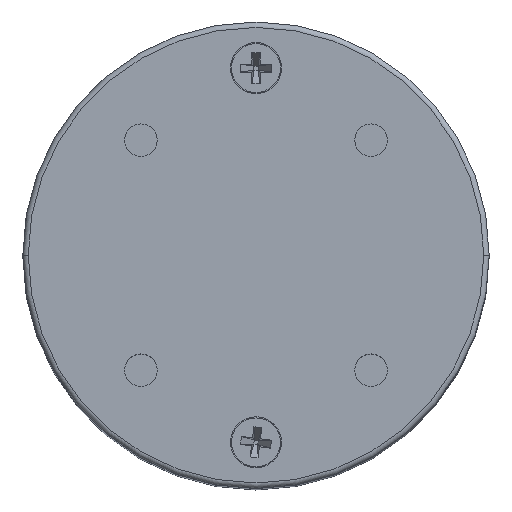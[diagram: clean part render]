
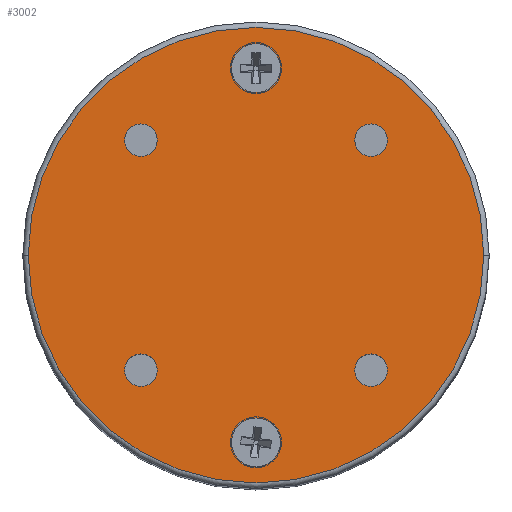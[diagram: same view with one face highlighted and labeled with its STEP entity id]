
A CAD part, top view. The second image highlights one B-rep face of the part: STEP entity #3002.
In plain terms, the highlighted planar face has unit normal (0, 0, 1).
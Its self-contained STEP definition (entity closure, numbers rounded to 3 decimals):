
#75 = DIRECTION ( 'NONE',  ( 0., 0., 1. ) ) ;
#327 = FACE_BOUND ( 'NONE', #793, .T. ) ;
#335 = CIRCLE ( 'NONE', #565, 2.25 ) ;
#366 = CIRCLE ( 'NONE', #3452, 2.25 ) ;
#378 = PLANE ( 'NONE',  #1835 ) ;
#414 = EDGE_CURVE ( 'NONE', #7295, #438, #3733, .T. ) ;
#438 = VERTEX_POINT ( 'NONE', #2697 ) ;
#442 = CIRCLE ( 'NONE', #2702, 1.5 ) ;
#463 = DIRECTION ( 'NONE',  ( 1., 0., 0. ) ) ;
#485 = FACE_OUTER_BOUND ( 'NONE', #1609, .T. ) ;
#516 = DIRECTION ( 'NONE',  ( 0., -1., 0. ) ) ;
#539 = EDGE_CURVE ( 'NONE', #3662, #720, #366, .T. ) ;
#565 = AXIS2_PLACEMENT_3D ( 'NONE', #608, #4568, #1172 ) ;
#608 = CARTESIAN_POINT ( 'NONE',  ( 0., -17.25, 89. ) ) ;
#636 = EDGE_CURVE ( 'NONE', #5842, #4505, #2839, .T. ) ;
#684 = CARTESIAN_POINT ( 'NONE',  ( 0., 0., 89. ) ) ;
#720 = VERTEX_POINT ( 'NONE', #1354 ) ;
#725 = CARTESIAN_POINT ( 'NONE',  ( 10.607, -10.607, 89. ) ) ;
#737 = DIRECTION ( 'NONE',  ( 0., 0., 1. ) ) ;
#742 = AXIS2_PLACEMENT_3D ( 'NONE', #684, #7053, #463 ) ;
#793 = EDGE_LOOP ( 'NONE', ( #5277, #5491 ) ) ;
#803 = VERTEX_POINT ( 'NONE', #6520 ) ;
#846 = CARTESIAN_POINT ( 'NONE',  ( 9.107, 10.607, 89. ) ) ;
#954 = DIRECTION ( 'NONE',  ( 0., 0., 1. ) ) ;
#1047 = AXIS2_PLACEMENT_3D ( 'NONE', #3234, #7156, #3802 ) ;
#1131 = ORIENTED_EDGE ( 'NONE', *, *, #4450, .F. ) ;
#1172 = DIRECTION ( 'NONE',  ( 1., 0., 0. ) ) ;
#1182 = CARTESIAN_POINT ( 'NONE',  ( -10.607, 10.607, 89. ) ) ;
#1211 = CARTESIAN_POINT ( 'NONE',  ( -10.607, 10.607, 89. ) ) ;
#1214 = CARTESIAN_POINT ( 'NONE',  ( 10.607, 10.607, 89. ) ) ;
#1232 = CIRCLE ( 'NONE', #5339, 1.5 ) ;
#1299 = DIRECTION ( 'NONE',  ( 0., -1., 0. ) ) ;
#1354 = CARTESIAN_POINT ( 'NONE',  ( -2.25, -17.25, 89. ) ) ;
#1429 = ORIENTED_EDGE ( 'NONE', *, *, #3075, .F. ) ;
#1433 = EDGE_CURVE ( 'NONE', #5935, #4130, #5641, .T. ) ;
#1445 = CARTESIAN_POINT ( 'NONE',  ( -21., 0., 89. ) ) ;
#1472 = ORIENTED_EDGE ( 'NONE', *, *, #1785, .F. ) ;
#1605 = DIRECTION ( 'NONE',  ( 0., 0., 1. ) ) ;
#1609 = EDGE_LOOP ( 'NONE', ( #5772, #6725 ) ) ;
#1688 = DIRECTION ( 'NONE',  ( 0., 0., 1. ) ) ;
#1714 = AXIS2_PLACEMENT_3D ( 'NONE', #1214, #5157, #1788 ) ;
#1766 = DIRECTION ( 'NONE',  ( 0., 1., 0. ) ) ;
#1785 = EDGE_CURVE ( 'NONE', #1896, #7015, #4411, .T. ) ;
#1788 = DIRECTION ( 'NONE',  ( 1., 0., 0. ) ) ;
#1824 = FACE_BOUND ( 'NONE', #6762, .T. ) ;
#1835 = AXIS2_PLACEMENT_3D ( 'NONE', #4349, #954, #4896 ) ;
#1896 = VERTEX_POINT ( 'NONE', #3043 ) ;
#1899 = AXIS2_PLACEMENT_3D ( 'NONE', #4132, #737, #4699 ) ;
#2208 = EDGE_CURVE ( 'NONE', #4505, #5842, #4311, .T. ) ;
#2442 = DIRECTION ( 'NONE',  ( 0., 0., 1. ) ) ;
#2693 = CARTESIAN_POINT ( 'NONE',  ( -2.25, 17.25, 89. ) ) ;
#2697 = CARTESIAN_POINT ( 'NONE',  ( 21., 0., 89. ) ) ;
#2702 = AXIS2_PLACEMENT_3D ( 'NONE', #3449, #75, #4017 ) ;
#2720 = CARTESIAN_POINT ( 'NONE',  ( 12.107, -10.607, 89. ) ) ;
#2751 = AXIS2_PLACEMENT_3D ( 'NONE', #3344, #1688, #516 ) ;
#2839 = CIRCLE ( 'NONE', #4955, 1.5 ) ;
#2922 = VERTEX_POINT ( 'NONE', #3665 ) ;
#3002 = ADVANCED_FACE ( 'NONE', ( #485, #4817, #4987, #3321, #1824, #327, #6133 ), #378, .T. ) ;
#3043 = CARTESIAN_POINT ( 'NONE',  ( -12.107, -10.607, 89. ) ) ;
#3075 = EDGE_CURVE ( 'NONE', #2922, #5308, #6738, .T. ) ;
#3234 = CARTESIAN_POINT ( 'NONE',  ( 0., 0., 89. ) ) ;
#3321 = FACE_BOUND ( 'NONE', #7086, .T. ) ;
#3344 = CARTESIAN_POINT ( 'NONE',  ( 10.607, -10.607, 89. ) ) ;
#3378 = DIRECTION ( 'NONE',  ( 0., 0., 1. ) ) ;
#3449 = CARTESIAN_POINT ( 'NONE',  ( 10.607, 10.607, 89. ) ) ;
#3452 = AXIS2_PLACEMENT_3D ( 'NONE', #6855, #2442, #6959 ) ;
#3538 = EDGE_LOOP ( 'NONE', ( #4277, #1472 ) ) ;
#3662 = VERTEX_POINT ( 'NONE', #6888 ) ;
#3665 = CARTESIAN_POINT ( 'NONE',  ( 2.25, 17.25, 89. ) ) ;
#3733 = CIRCLE ( 'NONE', #742, 21. ) ;
#3802 = DIRECTION ( 'NONE',  ( 1., 0., 0. ) ) ;
#4017 = DIRECTION ( 'NONE',  ( 1., 0., 0. ) ) ;
#4027 = CIRCLE ( 'NONE', #7131, 1.5 ) ;
#4052 = AXIS2_PLACEMENT_3D ( 'NONE', #1182, #5133, #1766 ) ;
#4103 = EDGE_CURVE ( 'NONE', #438, #7295, #6522, .T. ) ;
#4124 = AXIS2_PLACEMENT_3D ( 'NONE', #4219, #5340, #4772 ) ;
#4130 = VERTEX_POINT ( 'NONE', #2720 ) ;
#4132 = CARTESIAN_POINT ( 'NONE',  ( 0., 17.25, 89. ) ) ;
#4219 = CARTESIAN_POINT ( 'NONE',  ( -10.607, -10.607, 89. ) ) ;
#4277 = ORIENTED_EDGE ( 'NONE', *, *, #6938, .F. ) ;
#4296 = EDGE_CURVE ( 'NONE', #803, #6806, #442, .T. ) ;
#4311 = CIRCLE ( 'NONE', #4052, 1.5 ) ;
#4349 = CARTESIAN_POINT ( 'NONE',  ( 0., 0., 89. ) ) ;
#4411 = CIRCLE ( 'NONE', #4124, 1.5 ) ;
#4450 = EDGE_CURVE ( 'NONE', #4130, #5935, #1232, .T. ) ;
#4505 = VERTEX_POINT ( 'NONE', #5845 ) ;
#4568 = DIRECTION ( 'NONE',  ( 0., 0., 1. ) ) ;
#4690 = DIRECTION ( 'NONE',  ( 0., 0., 1. ) ) ;
#4699 = DIRECTION ( 'NONE',  ( 1., 0., 0. ) ) ;
#4704 = ORIENTED_EDGE ( 'NONE', *, *, #6980, .F. ) ;
#4772 = DIRECTION ( 'NONE',  ( -1., 0., 0. ) ) ;
#4817 = FACE_BOUND ( 'NONE', #7022, .T. ) ;
#4896 = DIRECTION ( 'NONE',  ( 1., 0., 0. ) ) ;
#4955 = AXIS2_PLACEMENT_3D ( 'NONE', #1211, #5155, #6822 ) ;
#4973 = CARTESIAN_POINT ( 'NONE',  ( 0., 17.25, 89. ) ) ;
#4987 = FACE_BOUND ( 'NONE', #3538, .T. ) ;
#5044 = EDGE_CURVE ( 'NONE', #5308, #2922, #5441, .T. ) ;
#5133 = DIRECTION ( 'NONE',  ( 0., 0., 1. ) ) ;
#5155 = DIRECTION ( 'NONE',  ( 0., 0., 1. ) ) ;
#5157 = DIRECTION ( 'NONE',  ( 0., 0., 1. ) ) ;
#5243 = DIRECTION ( 'NONE',  ( -1., 0., 0. ) ) ;
#5277 = ORIENTED_EDGE ( 'NONE', *, *, #539, .F. ) ;
#5308 = VERTEX_POINT ( 'NONE', #2693 ) ;
#5339 = AXIS2_PLACEMENT_3D ( 'NONE', #725, #4690, #1299 ) ;
#5340 = DIRECTION ( 'NONE',  ( 0., 0., 1. ) ) ;
#5370 = EDGE_CURVE ( 'NONE', #720, #3662, #335, .T. ) ;
#5378 = ORIENTED_EDGE ( 'NONE', *, *, #4296, .F. ) ;
#5441 = CIRCLE ( 'NONE', #1899, 2.25 ) ;
#5491 = ORIENTED_EDGE ( 'NONE', *, *, #5370, .F. ) ;
#5548 = DIRECTION ( 'NONE',  ( 1., 0., 0. ) ) ;
#5641 = CIRCLE ( 'NONE', #2751, 1.5 ) ;
#5683 = ORIENTED_EDGE ( 'NONE', *, *, #1433, .F. ) ;
#5772 = ORIENTED_EDGE ( 'NONE', *, *, #4103, .T. ) ;
#5842 = VERTEX_POINT ( 'NONE', #6416 ) ;
#5845 = CARTESIAN_POINT ( 'NONE',  ( -12.107, 10.607, 89. ) ) ;
#5935 = VERTEX_POINT ( 'NONE', #6507 ) ;
#6130 = CIRCLE ( 'NONE', #1714, 1.5 ) ;
#6133 = FACE_BOUND ( 'NONE', #6977, .T. ) ;
#6137 = ORIENTED_EDGE ( 'NONE', *, *, #636, .F. ) ;
#6316 = CARTESIAN_POINT ( 'NONE',  ( -9.107, -10.607, 89. ) ) ;
#6416 = CARTESIAN_POINT ( 'NONE',  ( -9.107, 10.607, 89. ) ) ;
#6507 = CARTESIAN_POINT ( 'NONE',  ( 9.107, -10.607, 89. ) ) ;
#6520 = CARTESIAN_POINT ( 'NONE',  ( 12.107, 10.607, 89. ) ) ;
#6522 = CIRCLE ( 'NONE', #1047, 21. ) ;
#6725 = ORIENTED_EDGE ( 'NONE', *, *, #414, .T. ) ;
#6729 = CARTESIAN_POINT ( 'NONE',  ( -10.607, -10.607, 89. ) ) ;
#6738 = CIRCLE ( 'NONE', #7176, 2.25 ) ;
#6762 = EDGE_LOOP ( 'NONE', ( #5378, #4704 ) ) ;
#6806 = VERTEX_POINT ( 'NONE', #846 ) ;
#6822 = DIRECTION ( 'NONE',  ( 0., 1., 0. ) ) ;
#6855 = CARTESIAN_POINT ( 'NONE',  ( 0., -17.25, 89. ) ) ;
#6888 = CARTESIAN_POINT ( 'NONE',  ( 2.25, -17.25, 89. ) ) ;
#6911 = ORIENTED_EDGE ( 'NONE', *, *, #5044, .F. ) ;
#6938 = EDGE_CURVE ( 'NONE', #7015, #1896, #4027, .T. ) ;
#6959 = DIRECTION ( 'NONE',  ( 1., 0., 0. ) ) ;
#6977 = EDGE_LOOP ( 'NONE', ( #1429, #6911 ) ) ;
#6980 = EDGE_CURVE ( 'NONE', #6806, #803, #6130, .T. ) ;
#7015 = VERTEX_POINT ( 'NONE', #6316 ) ;
#7022 = EDGE_LOOP ( 'NONE', ( #1131, #5683 ) ) ;
#7053 = DIRECTION ( 'NONE',  ( 0., 0., 1. ) ) ;
#7086 = EDGE_LOOP ( 'NONE', ( #6137, #7198 ) ) ;
#7131 = AXIS2_PLACEMENT_3D ( 'NONE', #6729, #3378, #5243 ) ;
#7156 = DIRECTION ( 'NONE',  ( 0., 0., 1. ) ) ;
#7176 = AXIS2_PLACEMENT_3D ( 'NONE', #4973, #1605, #5548 ) ;
#7198 = ORIENTED_EDGE ( 'NONE', *, *, #2208, .F. ) ;
#7295 = VERTEX_POINT ( 'NONE', #1445 ) ;
